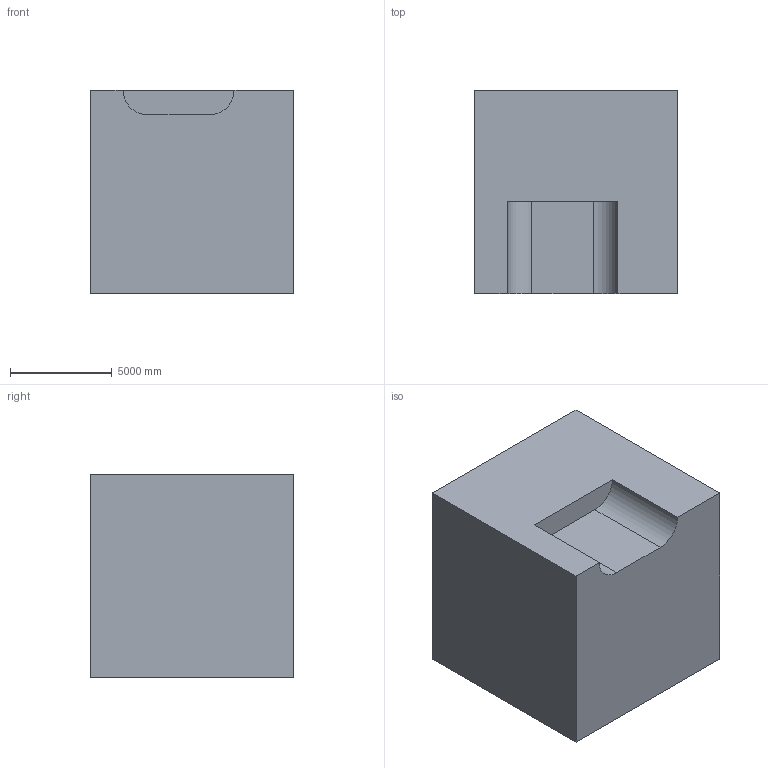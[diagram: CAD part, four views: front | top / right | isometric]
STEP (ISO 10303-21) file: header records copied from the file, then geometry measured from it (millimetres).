
FILE_DESCRIPTION (( 'STEP AP203' ), '1' );
FILE_NAME ('130.STEP', '2022-07-28T13:41:31', ( 'user' ), ( '' ), 'SwSTEP 2.0', 'SolidWorks 2021', '' );
FILE_SCHEMA (( 'CONFIG_CONTROL_DESIGN' ));
Length unit declared in the file: centimetre
Products named in the file (1): 130
Bounding box: 10000 x 10000 x 10000 mm (x, y, z)
Volume: 888434960455.9 mm3; surface area: 606257918.7 mm2
Topology: 1 solids, 1 shells, 13 faces, 33 edges, 22 vertices
Faces by surface type: plane 11, cylinder 2
Entity records: 468 total; most frequent: CARTESIAN_POINT 69, ORIENTED_EDGE 66, DIRECTION 65, EDGE_CURVE 33, LINE 29, VECTOR 29, VERTEX_POINT 22, AXIS2_PLACEMENT_3D 18
